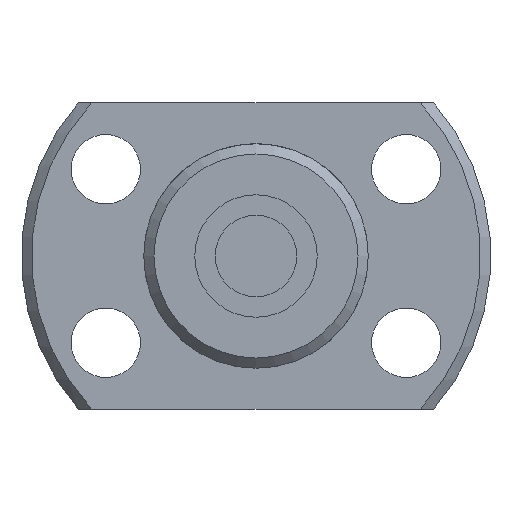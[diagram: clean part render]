
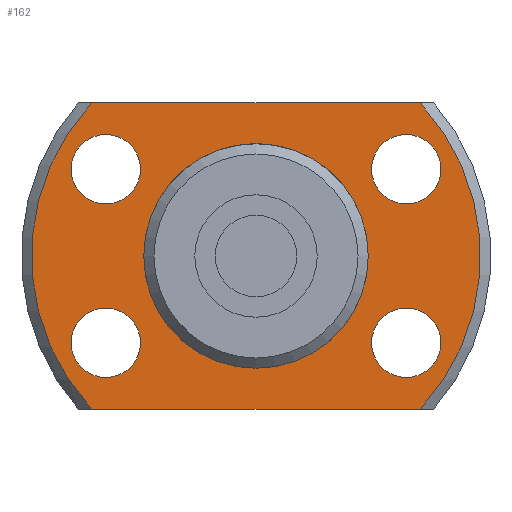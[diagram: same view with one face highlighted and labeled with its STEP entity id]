
A CAD part, left-side view. The second image highlights one B-rep face of the part: STEP entity #162.
In plain terms, the highlighted planar face has unit normal (-1, 0, 0).
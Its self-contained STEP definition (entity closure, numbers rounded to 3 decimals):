
#162 = ADVANCED_FACE( '', ( #325, #326, #327, #328, #329, #330 ), #331, .F. );
#325 = FACE_OUTER_BOUND( '', #503, .T. );
#326 = FACE_BOUND( '', #504, .T. );
#327 = FACE_BOUND( '', #505, .T. );
#328 = FACE_BOUND( '', #506, .T. );
#329 = FACE_BOUND( '', #507, .T. );
#330 = FACE_BOUND( '', #508, .T. );
#331 = PLANE( '', #509 );
#503 = EDGE_LOOP( '', ( #792, #793, #794, #795 ) );
#504 = EDGE_LOOP( '', ( #796 ) );
#505 = EDGE_LOOP( '', ( #797 ) );
#506 = EDGE_LOOP( '', ( #798 ) );
#507 = EDGE_LOOP( '', ( #799 ) );
#508 = EDGE_LOOP( '', ( #800 ) );
#509 = AXIS2_PLACEMENT_3D( '', #801, #802, #803 );
#792 = ORIENTED_EDGE( '', *, *, #1067, .F. );
#793 = ORIENTED_EDGE( '', *, *, #1038, .T. );
#794 = ORIENTED_EDGE( '', *, *, #1064, .F. );
#795 = ORIENTED_EDGE( '', *, *, #1068, .T. );
#796 = ORIENTED_EDGE( '', *, *, #979, .T. );
#797 = ORIENTED_EDGE( '', *, *, #1024, .T. );
#798 = ORIENTED_EDGE( '', *, *, #991, .T. );
#799 = ORIENTED_EDGE( '', *, *, #1053, .T. );
#800 = ORIENTED_EDGE( '', *, *, #1069, .T. );
#801 = CARTESIAN_POINT( '', ( 13., 5.25, 0. ) );
#802 = DIRECTION( '', ( 1., 0., 0. ) );
#803 = DIRECTION( '', ( 0., 0., -1. ) );
#979 = EDGE_CURVE( '', #1135, #1135, #1136, .T. );
#991 = EDGE_CURVE( '', #1155, #1155, #1156, .T. );
#1024 = EDGE_CURVE( '', #1210, #1210, #1211, .T. );
#1038 = EDGE_CURVE( '', #1233, #1231, #1234, .T. );
#1053 = EDGE_CURVE( '', #1253, #1253, #1254, .T. );
#1064 = EDGE_CURVE( '', #1268, #1231, #1269, .T. );
#1067 = EDGE_CURVE( '', #1233, #1272, #1273, .T. );
#1068 = EDGE_CURVE( '', #1268, #1272, #1274, .T. );
#1069 = EDGE_CURVE( '', #1275, #1275, #1276, .T. );
#1135 = VERTEX_POINT( '', #1361 );
#1136 = CIRCLE( '', #1362, 1.7 );
#1155 = VERTEX_POINT( '', #1384 );
#1156 = CIRCLE( '', #1385, 1.7 );
#1210 = VERTEX_POINT( '', #1480 );
#1211 = CIRCLE( '', #1481, 1.7 );
#1231 = VERTEX_POINT( '', #1504 );
#1233 = VERTEX_POINT( '', #1509 );
#1234 = LINE( '', #1510, #1511 );
#1253 = VERTEX_POINT( '', #1539 );
#1254 = CIRCLE( '', #1540, 1.7 );
#1268 = VERTEX_POINT( '', #1557 );
#1269 = CIRCLE( '', #1558, 11. );
#1272 = VERTEX_POINT( '', #1564 );
#1273 = CIRCLE( '', #1565, 11. );
#1274 = LINE( '', #1566, #1567 );
#1275 = VERTEX_POINT( '', #1568 );
#1276 = CIRCLE( '', #1569, 5.25 );
#1361 = CARTESIAN_POINT( '', ( 13., -7.361, 2.55 ) );
#1362 = AXIS2_PLACEMENT_3D( '', #1646, #1647, #1648 );
#1384 = CARTESIAN_POINT( '', ( 13., 7.361, -5.95 ) );
#1385 = AXIS2_PLACEMENT_3D( '', #1667, #1668, #1669 );
#1480 = CARTESIAN_POINT( '', ( 13., -7.361, -5.95 ) );
#1481 = AXIS2_PLACEMENT_3D( '', #1712, #1713, #1714 );
#1504 = CARTESIAN_POINT( '', ( 13., -8.047, -7.5 ) );
#1509 = CARTESIAN_POINT( '', ( 13., 8.047, -7.5 ) );
#1510 = CARTESIAN_POINT( '', ( 13., 5.25, -7.5 ) );
#1511 = VECTOR( '', #1733, 1000. );
#1539 = CARTESIAN_POINT( '', ( 13., 7.361, 2.55 ) );
#1540 = AXIS2_PLACEMENT_3D( '', #1752, #1753, #1754 );
#1557 = CARTESIAN_POINT( '', ( 13., -8.047, 7.5 ) );
#1558 = AXIS2_PLACEMENT_3D( '', #1767, #1768, #1769 );
#1564 = CARTESIAN_POINT( '', ( 13., 8.047, 7.5 ) );
#1565 = AXIS2_PLACEMENT_3D( '', #1770, #1771, #1772 );
#1566 = CARTESIAN_POINT( '', ( 13., 5.25, 7.5 ) );
#1567 = VECTOR( '', #1773, 1000. );
#1568 = CARTESIAN_POINT( '', ( 13., 0., -5.25 ) );
#1569 = AXIS2_PLACEMENT_3D( '', #1774, #1775, #1776 );
#1646 = CARTESIAN_POINT( '', ( 13., -7.361, 4.25 ) );
#1647 = DIRECTION( '', ( 1., 0., 0. ) );
#1648 = DIRECTION( '', ( 0., 0., -1. ) );
#1667 = CARTESIAN_POINT( '', ( 13., 7.361, -4.25 ) );
#1668 = DIRECTION( '', ( 1., 0., 0. ) );
#1669 = DIRECTION( '', ( 0., 0., -1. ) );
#1712 = CARTESIAN_POINT( '', ( 13., -7.361, -4.25 ) );
#1713 = DIRECTION( '', ( 1., 0., 0. ) );
#1714 = DIRECTION( '', ( 0., 0., -1. ) );
#1733 = DIRECTION( '', ( 0., -1., 0. ) );
#1752 = CARTESIAN_POINT( '', ( 13., 7.361, 4.25 ) );
#1753 = DIRECTION( '', ( 1., 0., 0. ) );
#1754 = DIRECTION( '', ( 0., 0., -1. ) );
#1767 = CARTESIAN_POINT( '', ( 13., 0., 0. ) );
#1768 = DIRECTION( '', ( 1., 0., 0. ) );
#1769 = DIRECTION( '', ( 0., 0., -1. ) );
#1770 = CARTESIAN_POINT( '', ( 13., 0., 0. ) );
#1771 = DIRECTION( '', ( 1., 0., 0. ) );
#1772 = DIRECTION( '', ( 0., 0., -1. ) );
#1773 = DIRECTION( '', ( 0., 1., 0. ) );
#1774 = CARTESIAN_POINT( '', ( 13., 0., 0. ) );
#1775 = DIRECTION( '', ( 1., 0., 0. ) );
#1776 = DIRECTION( '', ( 0., 0., -1. ) );
